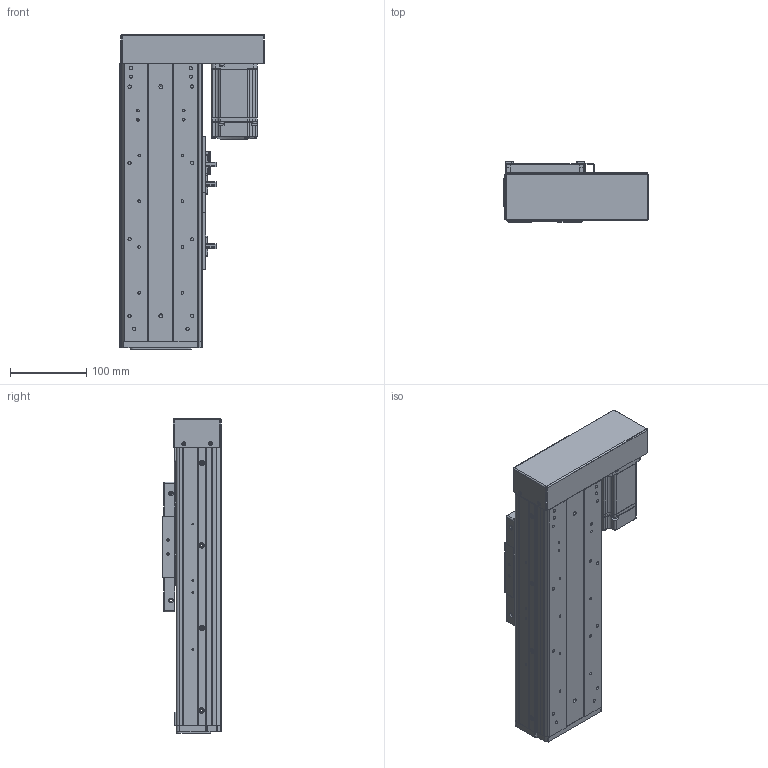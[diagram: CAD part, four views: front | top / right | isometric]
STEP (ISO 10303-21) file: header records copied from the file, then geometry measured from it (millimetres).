
FILE_DESCRIPTION (( 'STEP AP203' ), '1' );
FILE_NAME ('RY100FS-L1620-300-RK(15双轨).SLDASM_100.step', '2021-03-02T07:45:49', ( '盈信电脑' ), ( '东莞市道滘镇水果街19号' ), 'SwSTEP 2.0', 'SolidWorks 2012', '' );
FILE_SCHEMA (( 'CONFIG_CONTROL_DESIGN' ));
Length unit declared in the file: millimetre
Products named in the file (21): RY100FS-L1620-300-RK(15邧寢).SLDASM_100; 蚥薯蝶紫輸; 滅袉蝶14-35; 1; RY100FS-15邧寢蛌殏萇儂欶; RY100FS-15邧寢蛌殏萇儂啣; 覜茼ん672; RY100FS-15邧寢蛌殏萇儂釱; RY100FS-双轨螺母座(16丝杆）; RY100F-詩湍揤踡輸; RY80俋离覜茼え; 672嫖萇羲壽假蚾釱; RY100F-綴裔啣; RY100F-詩湍揤踡謫; RY100F-詩湍幗謫粣; 棠沺沭; RY100F-滅鳥裔啣; RY100FS-300-RK15邧寢祥凄詩湍_100; RY100FS-300-RK15絳寢倰第奻裔啣_100; RY100FS-双轨铝滑块(上板）; RY100FS-300-RK15絳寢倰第菁釱_100
Assembly tree (29 placements, depth 2):
  RY100FS-L1620-300-RK(15邧寢).SLDASM_100
    RY100FS-300-RK15絳寢倰第菁釱_100
    RY100FS-300-RK15絳寢倰第奻裔啣_100  x2
    RY100FS-300-RK15邧寢祥凄詩湍_100
    RY100FS-双轨铝滑块(上板）
    RY100F-滅鳥裔啣
    棠沺沭  x2
    RY100F-詩湍幗謫粣
    RY100F-詩湍揤踡謫  x2
    RY100F-綴裔啣
    672嫖萇羲壽假蚾釱  x2
    RY80俋离覜茼え  x2
    覜茼ん672  x3
    RY100F-詩湍揤踡輸  x2
    RY100FS-双轨螺母座(16丝杆）
    RY100FS-15邧寢蛌殏萇儂釱
    滅袉蝶14-35
    1
    RY100FS-15邧寢蛌殏萇儂啣
    RY100FS-15邧寢蛌殏萇儂欶
    蚥薯蝶紫輸  x2
Bounding box: 189.5 x 78.5 x 412 mm (x, y, z)
Volume: 1509510.6 mm3; surface area: 602393.8 mm2
Topology: 29 solids, 29 shells, 2131 faces, 5716 edges, 3682 vertices
Faces by surface type: plane 1012, cylinder 918, cone 168, bspline 33
Entity records: 59352 total; most frequent: CARTESIAN_POINT 11806, DIRECTION 9541, ORIENTED_EDGE 9240, EDGE_CURVE 4620, AXIS2_PLACEMENT_3D 3364, VERTEX_POINT 3030, VECTOR 2813, LINE 2813
